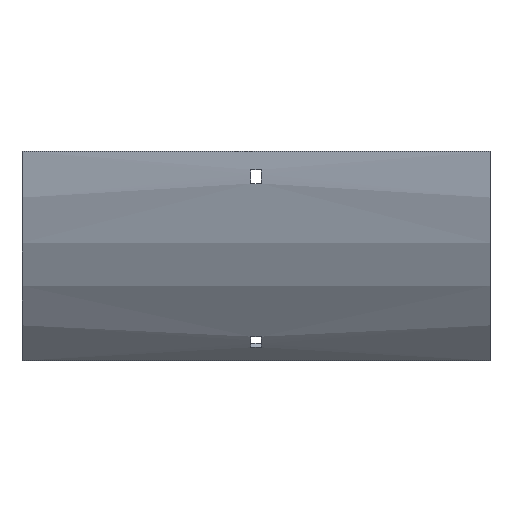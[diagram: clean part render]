
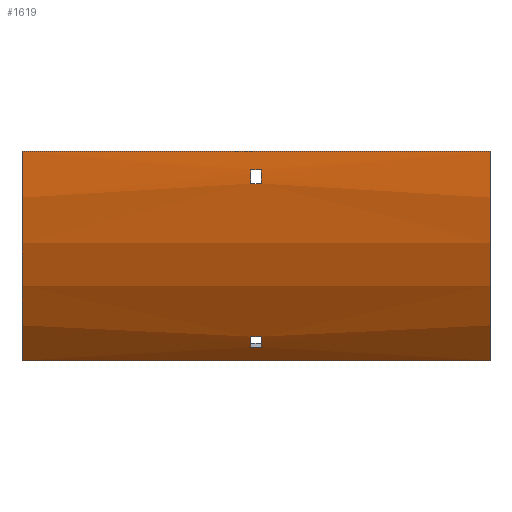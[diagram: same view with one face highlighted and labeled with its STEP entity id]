
A CAD part, front view. The second image highlights one B-rep face of the part: STEP entity #1619.
In plain terms, the highlighted cylindrical face has radius 192.5 mm (diameter 385 mm), a partial arc.
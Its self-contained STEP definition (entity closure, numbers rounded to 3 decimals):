
#27 = ORIENTED_EDGE ( 'NONE', *, *, #1482, .T. ) ;
#28 = CARTESIAN_POINT ( 'NONE',  ( -152., 100., 0. ) ) ;
#39 = AXIS2_PLACEMENT_3D ( 'NONE', #135, #1152, #117 ) ;
#50 = EDGE_CURVE ( 'NONE', #797, #411, #882, .T. ) ;
#63 = CARTESIAN_POINT ( 'NONE',  ( 3.25, -44.339, -127.368 ) ) ;
#67 = VECTOR ( 'NONE', #546, 1000. ) ;
#69 = DIRECTION ( 'NONE',  ( -1., 0., 0. ) ) ;
#73 = VERTEX_POINT ( 'NONE', #669 ) ;
#110 = DIRECTION ( 'NONE',  ( -1., 0., 0. ) ) ;
#117 = DIRECTION ( 'NONE',  ( 0., 0., 1. ) ) ;
#128 = AXIS2_PLACEMENT_3D ( 'NONE', #1185, #643, #258 ) ;
#135 = CARTESIAN_POINT ( 'NONE',  ( 3.25, 100., 0. ) ) ;
#136 = DIRECTION ( 'NONE',  ( 1., 0., 0. ) ) ;
#161 = EDGE_CURVE ( 'NONE', #444, #446, #1294, .T. ) ;
#188 = VECTOR ( 'NONE', #1281, 1000. ) ;
#189 = VECTOR ( 'NONE', #190, 1000. ) ;
#190 = DIRECTION ( 'NONE',  ( -1., 0., 0. ) ) ;
#207 = DIRECTION ( 'NONE',  ( 0., 0., 1. ) ) ;
#240 = AXIS2_PLACEMENT_3D ( 'NONE', #1580, #1308, #1058 ) ;
#256 = VECTOR ( 'NONE', #110, 1000. ) ;
#258 = DIRECTION ( 'NONE',  ( 0., 0., -1. ) ) ;
#261 = VERTEX_POINT ( 'NONE', #566 ) ;
#300 = EDGE_CURVE ( 'NONE', #1466, #797, #451, .T. ) ;
#411 = VERTEX_POINT ( 'NONE', #748 ) ;
#444 = VERTEX_POINT ( 'NONE', #1671 ) ;
#446 = VERTEX_POINT ( 'NONE', #1025 ) ;
#451 = LINE ( 'NONE', #983, #67 ) ;
#479 = FACE_OUTER_BOUND ( 'NONE', #1363, .T. ) ;
#504 = DIRECTION ( 'NONE',  ( 1., 0., 0. ) ) ;
#506 = DIRECTION ( 'NONE',  ( -1., 0., 0. ) ) ;
#546 = DIRECTION ( 'NONE',  ( 1., 0., 0. ) ) ;
#548 = DIRECTION ( 'NONE',  ( 0., 0., -1. ) ) ;
#555 = EDGE_CURVE ( 'NONE', #778, #1330, #1154, .T. ) ;
#566 = CARTESIAN_POINT ( 'NONE',  ( -3.25, -44.339, -127.368 ) ) ;
#570 = CARTESIAN_POINT ( 'NONE',  ( 3.25, -50.155, -120.456 ) ) ;
#600 = VERTEX_POINT ( 'NONE', #1287 ) ;
#627 = CARTESIAN_POINT ( 'NONE',  ( 152., -91.351, -21. ) ) ;
#637 = EDGE_LOOP ( 'NONE', ( #832, #27, #1107, #1045 ) ) ;
#643 = DIRECTION ( 'NONE',  ( 1., 0., 0. ) ) ;
#660 = DIRECTION ( 'NONE',  ( 0., 0., -1. ) ) ;
#669 = CARTESIAN_POINT ( 'NONE',  ( -3.25, -91.351, -21. ) ) ;
#714 = EDGE_CURVE ( 'NONE', #1070, #600, #1687, .T. ) ;
#748 = CARTESIAN_POINT ( 'NONE',  ( 3.25, -91.351, -21. ) ) ;
#765 = LINE ( 'NONE', #925, #256 ) ;
#778 = VERTEX_POINT ( 'NONE', #570 ) ;
#796 = ORIENTED_EDGE ( 'NONE', *, *, #555, .F. ) ;
#797 = VERTEX_POINT ( 'NONE', #1071 ) ;
#832 = ORIENTED_EDGE ( 'NONE', *, *, #998, .T. ) ;
#843 = VERTEX_POINT ( 'NONE', #63 ) ;
#856 = ORIENTED_EDGE ( 'NONE', *, *, #1402, .F. ) ;
#857 = LINE ( 'NONE', #1651, #189 ) ;
#873 = FACE_BOUND ( 'NONE', #1440, .T. ) ;
#882 = CIRCLE ( 'NONE', #128, 192.5 ) ;
#920 = ORIENTED_EDGE ( 'NONE', *, *, #1007, .F. ) ;
#925 = CARTESIAN_POINT ( 'NONE',  ( 152., -92.5, 0. ) ) ;
#957 = CARTESIAN_POINT ( 'NONE',  ( -3.25, -92.126, -12. ) ) ;
#960 = CARTESIAN_POINT ( 'NONE',  ( -152., -92.5, 0. ) ) ;
#963 = ORIENTED_EDGE ( 'NONE', *, *, #1646, .F. ) ;
#982 = VECTOR ( 'NONE', #506, 1000. ) ;
#983 = CARTESIAN_POINT ( 'NONE',  ( 152., -92.126, -12. ) ) ;
#998 = EDGE_CURVE ( 'NONE', #411, #73, #1285, .T. ) ;
#999 = ORIENTED_EDGE ( 'NONE', *, *, #714, .T. ) ;
#1005 = CIRCLE ( 'NONE', #1490, 192.5 ) ;
#1007 = EDGE_CURVE ( 'NONE', #843, #778, #1385, .T. ) ;
#1016 = EDGE_CURVE ( 'NONE', #1330, #261, #1005, .T. ) ;
#1025 = CARTESIAN_POINT ( 'NONE',  ( 152., -36.118, -136.118 ) ) ;
#1027 = EDGE_CURVE ( 'NONE', #444, #1070, #765, .T. ) ;
#1045 = ORIENTED_EDGE ( 'NONE', *, *, #50, .T. ) ;
#1058 = DIRECTION ( 'NONE',  ( 0., 0., 1. ) ) ;
#1070 = VERTEX_POINT ( 'NONE', #960 ) ;
#1071 = CARTESIAN_POINT ( 'NONE',  ( 3.25, -92.126, -12. ) ) ;
#1107 = ORIENTED_EDGE ( 'NONE', *, *, #300, .T. ) ;
#1152 = DIRECTION ( 'NONE',  ( -1., 0., 0. ) ) ;
#1154 = LINE ( 'NONE', #1303, #188 ) ;
#1185 = CARTESIAN_POINT ( 'NONE',  ( 3.25, 100., 0. ) ) ;
#1244 = FACE_BOUND ( 'NONE', #637, .T. ) ;
#1252 = AXIS2_PLACEMENT_3D ( 'NONE', #28, #1585, #548 ) ;
#1259 = CARTESIAN_POINT ( 'NONE',  ( 152., 100., 0. ) ) ;
#1268 = ORIENTED_EDGE ( 'NONE', *, *, #1027, .T. ) ;
#1281 = DIRECTION ( 'NONE',  ( -1., 0., 0. ) ) ;
#1285 = LINE ( 'NONE', #627, #982 ) ;
#1287 = CARTESIAN_POINT ( 'NONE',  ( -152., -36.118, -136.118 ) ) ;
#1294 = CIRCLE ( 'NONE', #1459, 192.5 ) ;
#1303 = CARTESIAN_POINT ( 'NONE',  ( 152., -50.155, -120.456 ) ) ;
#1306 = VECTOR ( 'NONE', #504, 1000. ) ;
#1308 = DIRECTION ( 'NONE',  ( -1., 0., 0. ) ) ;
#1311 = CARTESIAN_POINT ( 'NONE',  ( 152., 100., 0. ) ) ;
#1330 = VERTEX_POINT ( 'NONE', #1532 ) ;
#1333 = AXIS2_PLACEMENT_3D ( 'NONE', #1259, #69, #207 ) ;
#1355 = CYLINDRICAL_SURFACE ( 'NONE', #1333, 192.5 ) ;
#1363 = EDGE_LOOP ( 'NONE', ( #999, #963, #1693, #1268 ) ) ;
#1385 = CIRCLE ( 'NONE', #39, 192.5 ) ;
#1396 = ORIENTED_EDGE ( 'NONE', *, *, #1016, .F. ) ;
#1402 = EDGE_CURVE ( 'NONE', #261, #843, #1413, .T. ) ;
#1413 = LINE ( 'NONE', #1556, #1306 ) ;
#1440 = EDGE_LOOP ( 'NONE', ( #1396, #796, #920, #856 ) ) ;
#1442 = CIRCLE ( 'NONE', #240, 192.5 ) ;
#1459 = AXIS2_PLACEMENT_3D ( 'NONE', #1311, #136, #660 ) ;
#1466 = VERTEX_POINT ( 'NONE', #957 ) ;
#1482 = EDGE_CURVE ( 'NONE', #73, #1466, #1442, .T. ) ;
#1490 = AXIS2_PLACEMENT_3D ( 'NONE', #1686, #1672, #1543 ) ;
#1532 = CARTESIAN_POINT ( 'NONE',  ( -3.25, -50.155, -120.456 ) ) ;
#1543 = DIRECTION ( 'NONE',  ( 0., 0., -1. ) ) ;
#1556 = CARTESIAN_POINT ( 'NONE',  ( 152., -44.339, -127.368 ) ) ;
#1580 = CARTESIAN_POINT ( 'NONE',  ( -3.25, 100., 0. ) ) ;
#1585 = DIRECTION ( 'NONE',  ( 1., 0., 0. ) ) ;
#1619 = ADVANCED_FACE ( 'NONE', ( #479, #1244, #873 ), #1355, .T. ) ;
#1646 = EDGE_CURVE ( 'NONE', #446, #600, #857, .T. ) ;
#1651 = CARTESIAN_POINT ( 'NONE',  ( 152., -36.118, -136.118 ) ) ;
#1671 = CARTESIAN_POINT ( 'NONE',  ( 152., -92.5, 0. ) ) ;
#1672 = DIRECTION ( 'NONE',  ( 1., 0., 0. ) ) ;
#1686 = CARTESIAN_POINT ( 'NONE',  ( -3.25, 100., 0. ) ) ;
#1687 = CIRCLE ( 'NONE', #1252, 192.5 ) ;
#1693 = ORIENTED_EDGE ( 'NONE', *, *, #161, .F. ) ;
